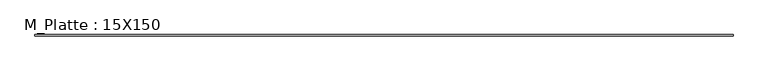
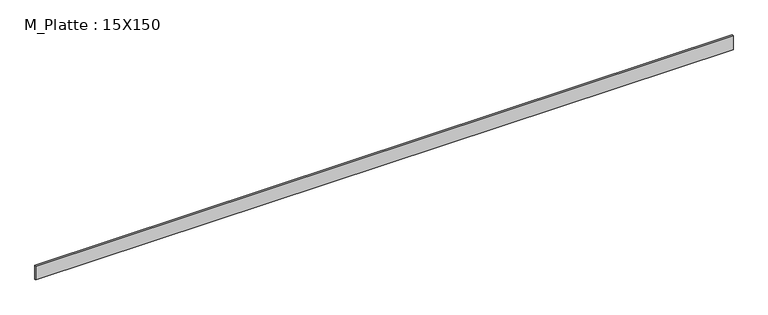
"""IFC4 building model written with IfcOpenShell, lengths in millimetres: beam geometry, M_Platte : 15X150."""

from ifc_helpers import new_model, si_unit, frame, origin, place, context, project, spatial, polyline, outline, extrude, source, transform, mapped, element, save


def m_platte_15x150_440fb802(model_context):
    return source(origin(), model_context, "Body", "SweptSolid", [
        extrude(outline(polyline([(3595.4979576, 7.5), (3595.4979576, -7.5), (-3595.4979576, -7.5), (-3595.4979576, 7.5), (3595.4979576, 7.5)])), frame((0.0, 0.0, -75.0), z_axis=(0.0, 0.0, 1.0), x_axis=(1.0, 0.0, 0.0)), (0.0, 0.0, 1.0), 150.0),
    ])


if __name__ == "__main__":
    model = new_model("IFC4")
    model_context = context("Model", 3, world=origin())
    ifc_project = project(units=[si_unit("LENGTHUNIT", "METRE", prefix="MILLI")], contexts=[model_context])
    site = spatial("IfcSite", under=ifc_project)
    building = spatial("IfcBuilding", under=site)
    placement = place(None, origin())
    m_platte_15x150_shape = m_platte_15x150_440fb802(model_context)
    element("IfcBeam", 1, ObjectType="M_Platte : 15X150", at=placement, inside=building, context=model_context, shape_type="MappedRepresentation", body=[
        mapped(m_platte_15x150_shape, transform((0.0, 0.0, 0.0), x_axis=(1.0, 0.0, 0.0), y_axis=(0.0, 1.0, 0.0), z_axis=(0.0, 0.0, 1.0))),
    ])
    save(model, "model.ifc")
